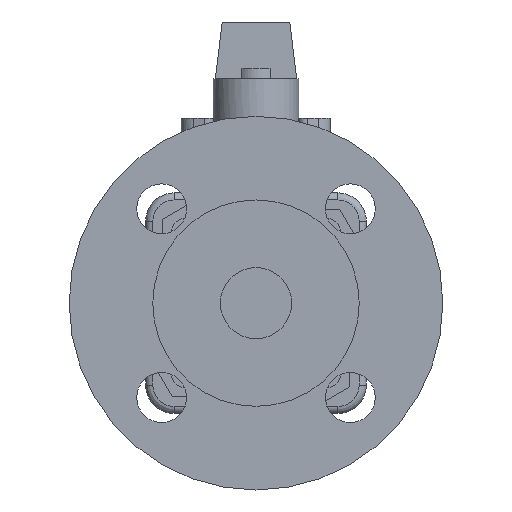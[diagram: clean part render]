
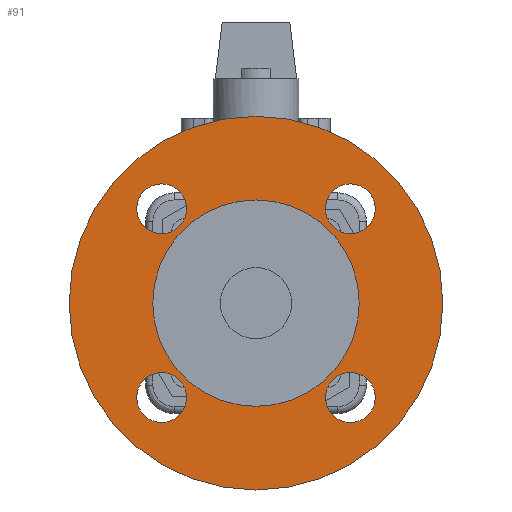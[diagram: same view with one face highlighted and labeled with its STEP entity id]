
A CAD part, left-side view. The second image highlights one B-rep face of the part: STEP entity #91.
In plain terms, the highlighted planar face has unit normal (-1, 0, 0).
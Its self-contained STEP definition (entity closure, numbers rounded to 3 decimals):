
#91=ADVANCED_FACE('',(#459,#460,#461,#462,#463,#464),#458,.T.);
#458=PLANE('',#2545);
#459=FACE_OUTER_BOUND('',#2546,.T.);
#460=FACE_BOUND('',#2547,.T.);
#461=FACE_BOUND('',#2548,.T.);
#462=FACE_BOUND('',#2549,.T.);
#463=FACE_BOUND('',#2550,.T.);
#464=FACE_BOUND('',#2551,.T.);
#2542=CARTESIAN_POINT('',(-74.5,-100.933,-115.));
#2543=DIRECTION('',(-1.,0.,0.));
#2544=DIRECTION('',(0.,0.,1.));
#2545=AXIS2_PLACEMENT_3D('',#2542,#2543,#2544);
#2546=EDGE_LOOP('',(#4088,#4089));
#2547=EDGE_LOOP('',(#4090,#4091));
#2548=EDGE_LOOP('',(#4092,#4093));
#2549=EDGE_LOOP('',(#4094,#4095));
#2550=EDGE_LOOP('',(#4096,#4097));
#2551=EDGE_LOOP('',(#4098,#4099));
#4088=ORIENTED_EDGE('',*,*,#5194,.T.);
#4089=ORIENTED_EDGE('',*,*,#5195,.T.);
#4090=ORIENTED_EDGE('',*,*,#5196,.F.);
#4091=ORIENTED_EDGE('',*,*,#5197,.F.);
#4092=ORIENTED_EDGE('',*,*,#5198,.F.);
#4093=ORIENTED_EDGE('',*,*,#5199,.F.);
#4094=ORIENTED_EDGE('',*,*,#5200,.F.);
#4095=ORIENTED_EDGE('',*,*,#5201,.F.);
#4096=ORIENTED_EDGE('',*,*,#5202,.F.);
#4097=ORIENTED_EDGE('',*,*,#5203,.F.);
#4098=ORIENTED_EDGE('',*,*,#5204,.F.);
#4099=ORIENTED_EDGE('',*,*,#5205,.F.);
#5194=EDGE_CURVE('',#6531,#6532,#6533,.T.);
#5195=EDGE_CURVE('',#6532,#6531,#6539,.T.);
#5196=EDGE_CURVE('',#6545,#6546,#6547,.T.);
#5197=EDGE_CURVE('',#6546,#6545,#6553,.T.);
#5198=EDGE_CURVE('',#6559,#6560,#6561,.T.);
#5199=EDGE_CURVE('',#6560,#6559,#6567,.T.);
#5200=EDGE_CURVE('',#6573,#6574,#6575,.T.);
#5201=EDGE_CURVE('',#6574,#6573,#6581,.T.);
#5202=EDGE_CURVE('',#6587,#6588,#6589,.T.);
#5203=EDGE_CURVE('',#6588,#6587,#6595,.T.);
#5204=EDGE_CURVE('',#6601,#6602,#6603,.T.);
#5205=EDGE_CURVE('',#6602,#6601,#6609,.T.);
#6531=VERTEX_POINT('',#9919);
#6532=VERTEX_POINT('',#9920);
#6533=CIRCLE('',#9924,52.5);
#6539=CIRCLE('',#9928,52.5);
#6545=VERTEX_POINT('',#9929);
#6546=VERTEX_POINT('',#9930);
#6547=CIRCLE('',#9934,7.);
#6553=CIRCLE('',#9938,7.);
#6559=VERTEX_POINT('',#9939);
#6560=VERTEX_POINT('',#9940);
#6561=CIRCLE('',#9944,7.);
#6567=CIRCLE('',#9948,7.);
#6573=VERTEX_POINT('',#9949);
#6574=VERTEX_POINT('',#9950);
#6575=CIRCLE('',#9954,7.);
#6581=CIRCLE('',#9958,7.);
#6587=VERTEX_POINT('',#9959);
#6588=VERTEX_POINT('',#9960);
#6589=CIRCLE('',#9964,7.);
#6595=CIRCLE('',#9968,7.);
#6601=VERTEX_POINT('',#9969);
#6602=VERTEX_POINT('',#9970);
#6603=CIRCLE('',#9974,29.);
#6609=CIRCLE('',#9978,29.);
#9919=CARTESIAN_POINT('',(-74.5,0.,52.5));
#9920=CARTESIAN_POINT('',(-74.5,0.,-52.5));
#9921=CARTESIAN_POINT('',(-74.5,0.,0.));
#9922=DIRECTION('',(-1.,0.,0.));
#9923=DIRECTION('',(0.,0.,1.));
#9924=AXIS2_PLACEMENT_3D('',#9921,#9922,#9923);
#9925=CARTESIAN_POINT('',(-74.5,0.,0.));
#9926=DIRECTION('',(-1.,0.,0.));
#9927=DIRECTION('',(0.,0.,1.));
#9928=AXIS2_PLACEMENT_3D('',#9925,#9926,#9927);
#9929=CARTESIAN_POINT('',(-74.5,26.517,-19.517));
#9930=CARTESIAN_POINT('',(-74.5,26.517,-33.517));
#9931=CARTESIAN_POINT('',(-74.5,26.517,-26.517));
#9932=DIRECTION('',(-1.,0.,0.));
#9933=DIRECTION('',(0.,0.,-1.));
#9934=AXIS2_PLACEMENT_3D('',#9931,#9932,#9933);
#9935=CARTESIAN_POINT('',(-74.5,26.517,-26.517));
#9936=DIRECTION('',(-1.,0.,0.));
#9937=DIRECTION('',(0.,0.,-1.));
#9938=AXIS2_PLACEMENT_3D('',#9935,#9936,#9937);
#9939=CARTESIAN_POINT('',(-74.5,-26.517,-33.517));
#9940=CARTESIAN_POINT('',(-74.5,-26.517,-19.517));
#9941=CARTESIAN_POINT('',(-74.5,-26.517,-26.517));
#9942=DIRECTION('',(-1.,0.,0.));
#9943=DIRECTION('',(0.,0.,1.));
#9944=AXIS2_PLACEMENT_3D('',#9941,#9942,#9943);
#9945=CARTESIAN_POINT('',(-74.5,-26.517,-26.517));
#9946=DIRECTION('',(-1.,0.,0.));
#9947=DIRECTION('',(0.,0.,1.));
#9948=AXIS2_PLACEMENT_3D('',#9945,#9946,#9947);
#9949=CARTESIAN_POINT('',(-74.5,-26.517,33.517));
#9950=CARTESIAN_POINT('',(-74.5,-26.517,19.517));
#9951=CARTESIAN_POINT('',(-74.5,-26.517,26.517));
#9952=DIRECTION('',(-1.,0.,0.));
#9953=DIRECTION('',(0.,0.,-1.));
#9954=AXIS2_PLACEMENT_3D('',#9951,#9952,#9953);
#9955=CARTESIAN_POINT('',(-74.5,-26.517,26.517));
#9956=DIRECTION('',(-1.,0.,0.));
#9957=DIRECTION('',(0.,0.,-1.));
#9958=AXIS2_PLACEMENT_3D('',#9955,#9956,#9957);
#9959=CARTESIAN_POINT('',(-74.5,26.517,19.517));
#9960=CARTESIAN_POINT('',(-74.5,26.517,33.517));
#9961=CARTESIAN_POINT('',(-74.5,26.517,26.517));
#9962=DIRECTION('',(-1.,0.,0.));
#9963=DIRECTION('',(0.,0.,1.));
#9964=AXIS2_PLACEMENT_3D('',#9961,#9962,#9963);
#9965=CARTESIAN_POINT('',(-74.5,26.517,26.517));
#9966=DIRECTION('',(-1.,0.,0.));
#9967=DIRECTION('',(0.,0.,1.));
#9968=AXIS2_PLACEMENT_3D('',#9965,#9966,#9967);
#9969=CARTESIAN_POINT('',(-74.5,0.,-29.));
#9970=CARTESIAN_POINT('',(-74.5,0.,29.));
#9971=CARTESIAN_POINT('',(-74.5,0.,0.));
#9972=DIRECTION('',(-1.,0.,0.));
#9973=DIRECTION('',(0.,0.,1.));
#9974=AXIS2_PLACEMENT_3D('',#9971,#9972,#9973);
#9975=CARTESIAN_POINT('',(-74.5,0.,0.));
#9976=DIRECTION('',(-1.,0.,0.));
#9977=DIRECTION('',(0.,0.,1.));
#9978=AXIS2_PLACEMENT_3D('',#9975,#9976,#9977);
